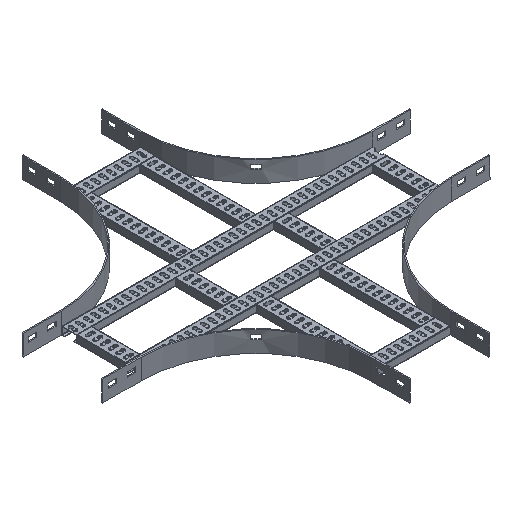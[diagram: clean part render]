
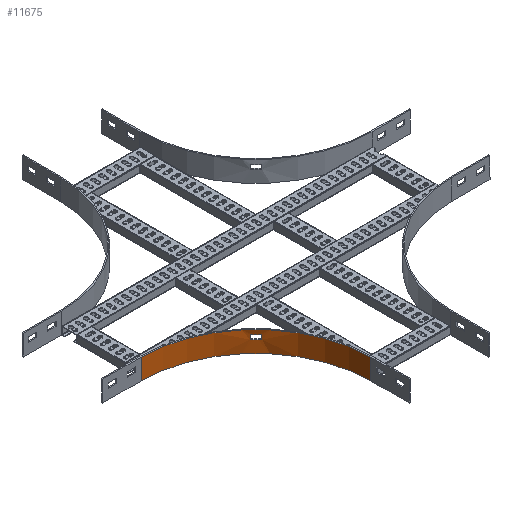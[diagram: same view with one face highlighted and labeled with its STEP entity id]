
A CAD part, isometric view. The second image highlights one B-rep face of the part: STEP entity #11675.
In plain terms, the highlighted cylindrical face has radius 300 mm (diameter 600 mm), a partial arc.
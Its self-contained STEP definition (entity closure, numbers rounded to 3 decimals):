
#343=FACE_BOUND('',#1713,.T.);
#555=CYLINDRICAL_SURFACE('',#12307,300.);
#600=CIRCLE('',#12299,300.);
#605=CIRCLE('',#12306,300.);
#606=CIRCLE('',#12308,300.);
#607=CIRCLE('',#12309,300.);
#1107=FACE_OUTER_BOUND('',#1712,.T.);
#1712=EDGE_LOOP('',(#7916,#7917,#7918,#7919));
#1713=EDGE_LOOP('',(#7920,#7921,#7922,#7923));
#2527=LINE('',#16351,#3755);
#2529=LINE('',#16357,#3757);
#2534=LINE('',#16381,#3762);
#2535=LINE('',#16384,#3763);
#3755=VECTOR('',#13267,304.8);
#3757=VECTOR('',#13271,304.8);
#3762=VECTOR('',#13298,304.8);
#3763=VECTOR('',#13301,304.8);
#4980=VERTEX_POINT('',#16344);
#4983=VERTEX_POINT('',#16349);
#4985=VERTEX_POINT('',#16354);
#4986=VERTEX_POINT('',#16356);
#4992=VERTEX_POINT('',#16377);
#4993=VERTEX_POINT('',#16378);
#4994=VERTEX_POINT('',#16380);
#4995=VERTEX_POINT('',#16382);
#6143=EDGE_CURVE('',#4983,#4980,#2527,.T.);
#6145=EDGE_CURVE('',#4985,#4986,#2529,.T.);
#6148=EDGE_CURVE('',#4980,#4985,#600,.T.);
#6155=EDGE_CURVE('',#4986,#4983,#605,.T.);
#6156=EDGE_CURVE('',#4992,#4993,#606,.T.);
#6157=EDGE_CURVE('',#4993,#4994,#2534,.T.);
#6158=EDGE_CURVE('',#4994,#4995,#607,.T.);
#6159=EDGE_CURVE('',#4995,#4992,#2535,.T.);
#7916=ORIENTED_EDGE('',*,*,#6143,.F.);
#7917=ORIENTED_EDGE('',*,*,#6155,.F.);
#7918=ORIENTED_EDGE('',*,*,#6145,.F.);
#7919=ORIENTED_EDGE('',*,*,#6148,.F.);
#7920=ORIENTED_EDGE('',*,*,#6156,.T.);
#7921=ORIENTED_EDGE('',*,*,#6157,.T.);
#7922=ORIENTED_EDGE('',*,*,#6158,.T.);
#7923=ORIENTED_EDGE('',*,*,#6159,.T.);
#11675=ADVANCED_FACE('',(#1107,#343),#555,.F.);
#12299=AXIS2_PLACEMENT_3D('',#16362,#13276,#13277);
#12306=AXIS2_PLACEMENT_3D('',#16375,#13292,#13293);
#12307=AXIS2_PLACEMENT_3D('',#16376,#13294,#13295);
#12308=AXIS2_PLACEMENT_3D('',#16379,#13296,#13297);
#12309=AXIS2_PLACEMENT_3D('',#16383,#13299,#13300);
#13267=DIRECTION('',(0.,0.,1.));
#13271=DIRECTION('',(0.,0.,-1.));
#13276=DIRECTION('center_axis',(0.,0.,-1.));
#13277=DIRECTION('ref_axis',(0.,1.,0.));
#13292=DIRECTION('center_axis',(0.,0.,1.));
#13293=DIRECTION('ref_axis',(0.,1.,0.));
#13294=DIRECTION('center_axis',(0.,0.,-1.));
#13295=DIRECTION('ref_axis',(0.,1.,0.));
#13296=DIRECTION('center_axis',(0.,0.,-1.));
#13297=DIRECTION('ref_axis',(0.,1.,0.));
#13298=DIRECTION('',(0.,0.,-1.));
#13299=DIRECTION('center_axis',(0.,0.,1.));
#13300=DIRECTION('ref_axis',(0.,1.,0.));
#13301=DIRECTION('',(0.,0.,1.));
#16344=CARTESIAN_POINT('',(-405.5,-105.5,27.));
#16349=CARTESIAN_POINT('',(-405.5,-105.5,-27.));
#16351=CARTESIAN_POINT('',(-405.5,-105.5,-27.));
#16354=CARTESIAN_POINT('',(-105.5,-405.5,27.));
#16356=CARTESIAN_POINT('',(-105.5,-405.5,-27.));
#16357=CARTESIAN_POINT('',(-105.5,-405.5,27.));
#16362=CARTESIAN_POINT('Origin',(-405.5,-405.5,27.));
#16375=CARTESIAN_POINT('Origin',(-405.5,-405.5,-27.));
#16376=CARTESIAN_POINT('Origin',(-405.5,-405.5,0.));
#16377=CARTESIAN_POINT('',(-201.26,-185.759,15.5));
#16378=CARTESIAN_POINT('',(-185.706,-201.318,15.5));
#16379=CARTESIAN_POINT('Origin',(-405.5,-405.5,15.5));
#16380=CARTESIAN_POINT('',(-185.706,-201.318,4.5));
#16381=CARTESIAN_POINT('',(-185.706,-201.318,15.5));
#16382=CARTESIAN_POINT('',(-201.26,-185.759,4.5));
#16383=CARTESIAN_POINT('Origin',(-405.5,-405.5,4.5));
#16384=CARTESIAN_POINT('',(-201.26,-185.759,4.5));
